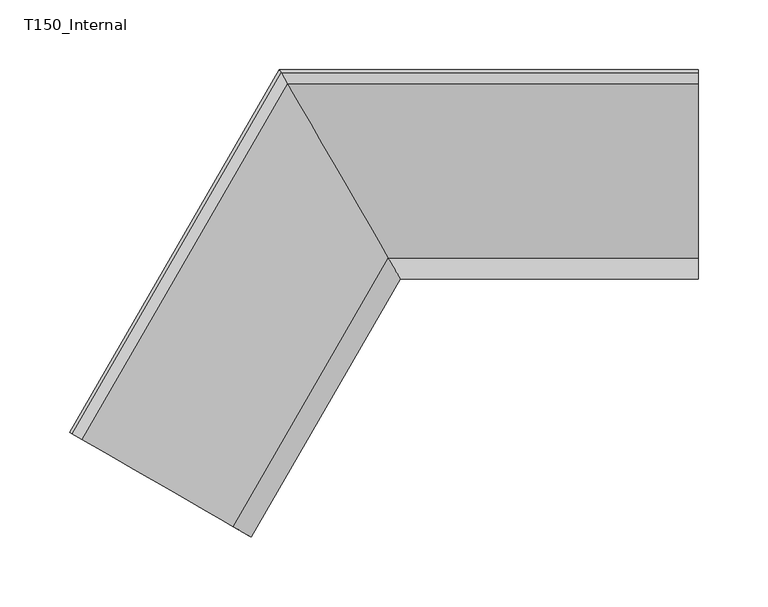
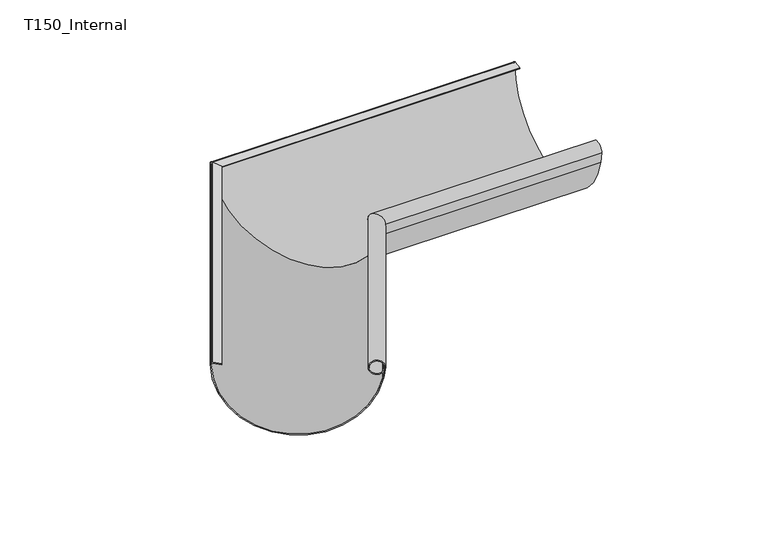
"""IFC4 building model written with IfcOpenShell, lengths in millimetres: proxy geometry, GROVIK_Gutter_Corner_Custom : T150_Internal."""

from ifc_helpers import new_model, si_unit, frame, origin, place, context, project, spatial, polyline, circle_curve, ellipse_curve, source, transform, mapped, element, save
from ifc_brep_helpers import plane_surface, cylinder_surface, revolved_surface, advanced_brep


def t150_internal_665e95bd(model_context):
    return source(origin(), model_context, "Body", "AdvancedBrep", [
        advanced_brep(
        [(-148.0946795, -260.9076584, -0.0242687), (-150.0, -259.8076211, -1.8), (-21.4496, -334.0262292, -16.2320172), (-20.0961894, -334.8076211, -5.2006666), (-22.1815329, -333.6036475, -10.6080252), (-21.5369279, -333.9758104, -9.0063664), (-21.0596263, -334.2513806, -5.5500325), (-21.8282402, -333.8076211, -5.4006666), (-22.318088, -333.5248074, -8.9478528), (-22.7331487, -333.285172, -9.9710741), (-20.8802055, -334.3549693, -5.3813466), (-22.2976482, -333.5366083, -16.0293209), (-149.1312614, -260.3091876, -2.054027), (-148.0103004, -260.9563747, -0.9559749), (-141.5252941, -264.7004949, -2.295228), (-141.3880736, -264.7797192, -1.4092855), (5.7990193, -9.8441961, -1.4092855), (1.3279487, -2.1000746, -0.0242687), (5.707539, -9.6857475, -2.295228), (1.3842014, -2.1975071, -0.9559749), (0.6373676, -0.9039531, -2.0540157), (85.1926363, -147.3579744, -16.0293209), (86.137598, -148.9946963, -5.3813466), (84.9023025, -146.8551017, -9.9710741), (85.1790097, -147.3343725, -8.9478528), (85.5055749, -147.9, -5.4006666), (86.0179842, -148.7875189, -5.5500325), (85.6997831, -148.2363785, -9.0063664), (85.2700464, -147.4920528, -10.6080252), (86.6602754, -149.9, -5.2006666), (85.7580017, -148.3372161, -16.2320172), (0.057735, 0.1, -1.8)],
        [
            (0, 1, circle_curve(frame((-148.3568323, -260.7563044, -1.9), z_axis=(-0.4999999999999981, -0.8660254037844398, 0.0), x_axis=(0.8660254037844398, -0.4999999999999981, 0.0)), 1.9)),
            (1, 2, circle_curve(frame((-85.0523738, -297.3051506, -1.03), z_axis=(-0.4999999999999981, -0.8660254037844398, 0.0), x_axis=(-0.8660254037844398, 0.4999999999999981, 0.0)), 74.9990118)),
            (2, 3),
            (3, 4, circle_curve(frame((-26.59138, -331.0576211, -5.1006666), z_axis=(-0.4999999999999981, -0.8660254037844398, 0.0), x_axis=(0.8660254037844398, -0.4999999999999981, 0.0)), 7.5006666)),
            (4, 5, circle_curve(frame((-24.2995216, -332.3808262, -8.4977001), z_axis=(-0.4999999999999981, -0.8660254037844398, 0.0), x_axis=(0.8660254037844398, -0.4999999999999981, 0.0)), 3.2302694)),
            (5, 6),
            (6, 7),
            (7, 8),
            (8, 9, circle_curve(frame((-24.0669093, -332.5151249, -8.6258487), z_axis=(0.4999999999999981, 0.8660254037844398, 0.0), x_axis=(0.8660254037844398, -0.4999999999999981, 0.0)), 2.0448768)),
            (9, 10, circle_curve(frame((-26.59138, -331.0576211, -5.1006666), z_axis=(0.4999999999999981, 0.8660254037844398, 0.0), x_axis=(0.8660254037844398, -0.4999999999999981, 0.0)), 6.6006666)),
            (10, 11),
            (11, 12, circle_curve(frame((-85.0523738, -297.3051506, -1.03), z_axis=(0.4999999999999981, 0.8660254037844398, 0.0), x_axis=(-0.8660254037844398, 0.4999999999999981, 0.0)), 73.9990118)),
            (12, 13, circle_curve(frame((-148.1780144, -260.859545, -2.0387934), z_axis=(0.4999999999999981, 0.8660254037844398, 0.0), x_axis=(0.8660254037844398, -0.4999999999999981, 0.0)), 1.1)),
            (13, 14),
            (14, 15),
            (15, 0),
            (15, 16),
            (16, 17),
            (17, 0),
            (14, 18),
            (18, 16),
            (13, 19),
            (19, 18),
            (12, 20),
            (20, 19, ellipse_curve(frame((1.2723921, -2.0038477, -2.0387934), z_axis=(0.8660254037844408, 0.4999999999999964, 0.0), x_axis=(-0.49999999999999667, 0.8660254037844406, 0.0)), 1.2701706, 1.1)),
            (11, 21),
            (21, 20, ellipse_curve(frame((43.3561525, -74.895059, -1.03), z_axis=(0.8660254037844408, 0.4999999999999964, 0.0), x_axis=(-0.49999999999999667, 0.8660254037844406, 0.0)), 85.4466987, 73.9990118)),
            (10, 22),
            (22, 21),
            (9, 23),
            (23, 22, ellipse_curve(frame((82.3301484, -142.4, -5.1006666), z_axis=(0.8660254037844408, 0.4999999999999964, 0.0), x_axis=(-0.49999999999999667, 0.8660254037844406, 0.0)), 7.6217933, 6.6006666)),
            (8, 24),
            (24, 23, ellipse_curve(frame((84.0131288, -145.3150076, -8.6258487), z_axis=(0.8660254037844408, 0.4999999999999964, 0.0), x_axis=(-0.49999999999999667, 0.8660254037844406, 0.0)), 2.3612204, 2.0448768)),
            (7, 25),
            (25, 24),
            (6, 26),
            (26, 25),
            (5, 27),
            (27, 26),
            (4, 28),
            (28, 27, ellipse_curve(frame((83.858054, -145.0464101, -8.4977001), z_axis=(-0.8660254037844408, -0.4999999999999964, 0.0), x_axis=(0.49999999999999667, -0.8660254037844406, 0.0)), 3.7299938, 3.2302694)),
            (3, 29),
            (29, 28, ellipse_curve(frame((82.3301484, -142.4, -5.1006666), z_axis=(-0.8660254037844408, -0.4999999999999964, 0.0), x_axis=(0.49999999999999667, -0.8660254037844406, 0.0)), 8.6610238, 7.5006666)),
            (2, 30),
            (30, 29),
            (1, 31),
            (31, 30, ellipse_curve(frame((43.3561525, -74.895059, -1.03), z_axis=(-0.8660254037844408, -0.4999999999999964, 0.0), x_axis=(0.49999999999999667, -0.8660254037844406, 0.0)), 86.6013993, 74.9990118)),
            (17, 31, ellipse_curve(frame((1.1531801, -1.7973666, -1.9), z_axis=(-0.8660254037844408, -0.4999999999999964, 0.0), x_axis=(0.49999999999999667, -0.8660254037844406, 0.0)), 2.193931, 1.9)),
        ],
        [
            plane_surface(frame((-150.0, -259.8076211, 0.0), z_axis=(-0.4999999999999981, -0.8660254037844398, 0.0), x_axis=(0.0, 0.0, 1.0))),
            plane_surface(frame((-148.0946795, -260.9076584, -0.0242687), z_axis=(0.1524672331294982, -0.08802699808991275, 0.984380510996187), x_axis=(0.4999999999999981, 0.8660254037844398, 0.0))),
            plane_surface(frame((-141.3880736, -264.7797192, -1.4092855), z_axis=(0.8524985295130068, -0.4921902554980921, -0.17605399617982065), x_axis=(0.4999999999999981, 0.8660254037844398, 0.0))),
            plane_surface(frame((-141.5252941, -264.7004949, -2.295228), z_axis=(-0.1524672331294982, 0.08802699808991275, -0.984380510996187), x_axis=(0.4999999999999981, 0.8660254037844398, 0.0))),
            revolved_surface(polyline([(2.54256270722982, -2.0038477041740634, -2.0387934), (-147.2253864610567, -261.40954500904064, -2.0387934)]), (-148.1780144, -260.859545, -2.0387934), (0.4999999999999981, 0.8660254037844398, 0.0)),
            revolved_surface(polyline([(0.6328030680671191, -0.8960472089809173, -1.03), (-149.13739787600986, -260.3056447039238, -1.03)]), (-85.0523738, -297.3051506, -1.03), (0.4999999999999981, 0.8660254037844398, 0.0)),
            plane_surface(frame((-22.2976482, -333.5366083, -16.0293209), z_axis=(-0.8559722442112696, 0.49419580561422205, 0.1519276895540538), x_axis=(0.4999999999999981, 0.8660254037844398, 0.0))),
            revolved_surface(polyline([(89.95194162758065, -142.39999995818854, -5.1006666), (-20.875035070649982, -334.35795444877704, -5.1006666)]), (-26.59138, -331.0576211, -5.1006666), (0.4999999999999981, 0.8660254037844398, 0.0)),
            revolved_surface(polyline([(86.37434916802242, -145.31500758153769, -8.6258487), (-22.295994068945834, -333.5375633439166, -8.6258487)]), (-24.0669093, -332.5151249, -8.6258487), (0.4999999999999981, 0.8660254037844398, 0.0)),
            plane_surface(frame((-22.318088, -333.5248074, -8.9478528), z_axis=(-0.8552208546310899, 0.493761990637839, 0.15746868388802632), x_axis=(0.4999999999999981, 0.8660254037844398, 0.0))),
            plane_surface(frame((-21.8282402, -333.8076211, -5.4006666), z_axis=(0.14372734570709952, -0.08298102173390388, 0.9861321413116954), x_axis=(0.4999999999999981, 0.8660254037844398, 0.0))),
            plane_surface(frame((-21.0596263, -334.2513806, -5.5500325), z_axis=(0.8552208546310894, -0.4937619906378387, -0.1574686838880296), x_axis=(0.4999999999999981, 0.8660254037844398, 0.0))),
            cylinder_surface(frame((-24.2995216, -332.3808262, -8.4977001), z_axis=(-0.4999999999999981, -0.8660254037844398, 0.0), x_axis=(0.8660254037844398, -0.4999999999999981, 0.0)), 3.2302694),
            cylinder_surface(frame((-26.59138, -331.0576211, -5.1006666), z_axis=(-0.4999999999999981, -0.8660254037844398, 0.0), x_axis=(0.8660254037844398, -0.4999999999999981, 0.0)), 7.5006666),
            plane_surface(frame((-20.0961894, -334.8076211, -5.2006666), z_axis=(0.8574636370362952, -0.49505686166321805, -0.14026694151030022), x_axis=(0.4999999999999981, 0.8660254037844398, 0.0))),
            cylinder_surface(frame((-85.0523738, -297.3051506, -1.03), z_axis=(-0.4999999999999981, -0.8660254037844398, 0.0), x_axis=(-0.8660254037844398, 0.4999999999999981, 0.0)), 74.9990118),
            cylinder_surface(frame((-148.3568323, -260.7563044, -1.9), z_axis=(-0.4999999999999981, -0.8660254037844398, 0.0), x_axis=(0.8660254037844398, -0.4999999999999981, 0.0)), 1.9),
            plane_surface(frame((86.7757455, -150.1, 250.0), z_axis=(0.8660254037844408, 0.4999999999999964, 0.0), x_axis=(0.0, 0.0, -1.0))),
        ],
        [
            (0, [[1, 2, 3, 4, 5, 6, 7, 8, 9, 10, 11, 12, 13, 14, 15, 16]]),
            (1, [[17, 18, 19, -16]]),
            (2, [[20, 21, -17, -15]]),
            (3, [[22, 23, -20, -14]]),
            (4, [[24, 25, -22, -13]]),
            (5, [[26, 27, -24, -12]]),
            (6, [[28, 29, -26, -11]]),
            (7, [[30, 31, -28, -10]]),
            (8, [[32, 33, -30, -9]]),
            (9, [[34, 35, -32, -8]]),
            (10, [[36, 37, -34, -7]]),
            (11, [[38, 39, -36, -6]]),
            (12, [[40, 41, -38, -5]]),
            (13, [[42, 43, -40, -4]]),
            (14, [[44, 45, -42, -3]]),
            (15, [[46, 47, -44, -2]]),
            (16, [[-19, 48, -46, -1]]),
            (17, [[-21, -23, -25, -27, -29, -31, -33, -35, -37, -39, -41, -43, -45, -47, -48, -18]]),
        ],
    ),
        advanced_brep(
        [(300.0, -2.2000746, -0.0242687), (300.0, -9.9441961, -1.4092855), (300.0, -9.7857475, -2.295228), (300.0, -2.2975071, -0.9559749), (300.0, -1.0039531, -2.0540157), (300.0, -147.4579744, -16.0293209), (300.0, -149.0946963, -5.3813466), (300.0, -146.9551017, -9.9710741), (300.0, -147.4343725, -8.9478528), (300.0, -148.0, -5.4006666), (300.0, -148.8875189, -5.5500325), (300.0, -148.3363785, -9.0063664), (300.0, -147.5920528, -10.6080252), (300.0, -150.0, -5.2006666), (300.0, -148.4372161, -16.2320172), (300.0, 0.0, -1.8), (1.1547436, -2.2000746, -0.0242687), (5.6258142, -9.9441961, -1.4092855), (5.5343339, -9.7857475, -2.295228), (1.2109963, -2.2975071, -0.9559749), (0.4641625, -1.0039531, -2.0540157), (85.0194312, -147.4579744, -16.0293209), (85.964393, -149.0946963, -5.3813466), (84.7290975, -146.9551017, -9.9710741), (85.0058046, -147.4343725, -8.9478528), (85.3323698, -148.0, -5.4006666), (85.8447791, -148.8875189, -5.5500325), (85.526578, -148.3363785, -9.0063664), (85.0968414, -147.5920528, -10.6080252), (86.4870703, -150.0, -5.2006666), (85.5847966, -148.4372161, -16.2320172), (-0.1154701, 0.0, -1.8)],
        [
            (0, 1),
            (1, 2),
            (2, 3),
            (3, 4, circle_curve(frame((300.0, -2.1038477, -2.0387934), z_axis=(-1.0, 0.0, 0.0), x_axis=(0.0, -1.0, 0.0)), 1.1)),
            (4, 5, circle_curve(frame((300.0, -74.995059, -1.03), z_axis=(-1.0, 0.0, 0.0), x_axis=(0.0, 1.0, 0.0)), 73.9990118)),
            (5, 6),
            (6, 7, circle_curve(frame((300.0, -142.5, -5.1006666), z_axis=(-1.0, 0.0, 0.0), x_axis=(0.0, -1.0, 0.0)), 6.6006666)),
            (7, 8, circle_curve(frame((300.0, -145.4150076, -8.6258487), z_axis=(-1.0, 0.0, 0.0), x_axis=(0.0, -1.0, 0.0)), 2.0448768)),
            (8, 9),
            (9, 10),
            (10, 11),
            (11, 12, circle_curve(frame((300.0, -145.1464101, -8.4977001), z_axis=(1.0, 0.0, 0.0), x_axis=(0.0, -1.0, 0.0)), 3.2302694)),
            (12, 13, circle_curve(frame((300.0, -142.5, -5.1006666), z_axis=(1.0, 0.0, 0.0), x_axis=(0.0, -1.0, 0.0)), 7.5006666)),
            (13, 14),
            (14, 15, circle_curve(frame((300.0, -74.995059, -1.03), z_axis=(1.0, 0.0, 0.0), x_axis=(0.0, 1.0, 0.0)), 74.9990118)),
            (15, 0, circle_curve(frame((300.0, -1.8973666, -1.9), z_axis=(1.0, 0.0, 0.0), x_axis=(0.0, -1.0, 0.0)), 1.9)),
            (0, 16),
            (16, 17),
            (17, 1),
            (17, 18),
            (18, 2),
            (18, 19),
            (19, 3),
            (19, 20, ellipse_curve(frame((1.099187, -2.1038477, -2.0387934), z_axis=(-0.8660254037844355, -0.5000000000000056, 0.0), x_axis=(-0.5000000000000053, 0.8660254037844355, 0.0)), 1.2701706, 1.1)),
            (20, 4),
            (20, 21, ellipse_curve(frame((43.1829474, -74.995059, -1.03), z_axis=(-0.8660254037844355, -0.5000000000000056, 0.0), x_axis=(-0.5000000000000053, 0.8660254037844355, 0.0)), 85.4466987, 73.9990118)),
            (21, 5),
            (21, 22),
            (22, 6),
            (22, 23, ellipse_curve(frame((82.1569433, -142.5, -5.1006666), z_axis=(-0.8660254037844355, -0.5000000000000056, 0.0), x_axis=(-0.5000000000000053, 0.8660254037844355, 0.0)), 7.6217933, 6.6006666)),
            (23, 7),
            (23, 24, ellipse_curve(frame((83.8399237, -145.4150076, -8.6258487), z_axis=(-0.8660254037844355, -0.5000000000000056, 0.0), x_axis=(-0.5000000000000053, 0.8660254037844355, 0.0)), 2.3612204, 2.0448768)),
            (24, 8),
            (24, 25),
            (25, 9),
            (25, 26),
            (26, 10),
            (26, 27),
            (27, 11),
            (27, 28, ellipse_curve(frame((83.6848489, -145.1464101, -8.4977001), z_axis=(0.8660254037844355, 0.5000000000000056, 0.0), x_axis=(0.5000000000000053, -0.8660254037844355, 0.0)), 3.7299938, 3.2302694)),
            (28, 12),
            (28, 29, ellipse_curve(frame((82.1569433, -142.5, -5.1006666), z_axis=(0.8660254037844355, 0.5000000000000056, 0.0), x_axis=(0.5000000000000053, -0.8660254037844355, 0.0)), 8.6610238, 7.5006666)),
            (29, 13),
            (29, 30),
            (30, 14),
            (30, 31, ellipse_curve(frame((43.1829474, -74.995059, -1.03), z_axis=(0.8660254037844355, 0.5000000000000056, 0.0), x_axis=(0.5000000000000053, -0.8660254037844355, 0.0)), 86.6013993, 74.9990118)),
            (31, 15),
            (31, 16, ellipse_curve(frame((0.9799751, -1.8973666, -1.9), z_axis=(0.8660254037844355, 0.5000000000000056, 0.0), x_axis=(0.5000000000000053, -0.8660254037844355, 0.0)), 2.193931, 1.9)),
        ],
        [
            plane_surface(frame((300.0, 0.0, 0.0), z_axis=(1.0, 0.0, 0.0), x_axis=(0.0, 0.0, 1.0))),
            plane_surface(frame((300.0, -2.2000746, -0.0242687), z_axis=(0.0, -0.17605399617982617, 0.9843805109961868), x_axis=(-1.0, 0.0, 0.0))),
            plane_surface(frame((300.0, -9.9441961, -1.4092855), z_axis=(0.0, -0.9843805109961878, -0.1760539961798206), x_axis=(-1.0, 0.0, 0.0))),
            plane_surface(frame((300.0, -9.7857475, -2.295228), z_axis=(0.0, 0.17605399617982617, -0.9843805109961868), x_axis=(-1.0, 0.0, 0.0))),
            revolved_surface(polyline([(0.4641016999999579, -3.2038477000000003, -2.0387934), (300.0, -3.2038477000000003, -2.0387934)]), (300.0, -2.1038477, -2.0387934), (-1.0, 0.0, 0.0)),
            revolved_surface(polyline([(0.4595980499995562, -0.9960471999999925, -1.03), (300.0, -0.9960471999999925, -1.03)]), (300.0, -74.995059, -1.03), (-1.0, 0.0, 0.0)),
            plane_surface(frame((300.0, -147.4579744, -16.0293209), z_axis=(0.0, 0.9883916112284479, 0.15192768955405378), x_axis=(-1.0, 0.0, 0.0))),
            revolved_surface(polyline([(78.34604664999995, -149.1006666, -5.1006666), (300.0, -149.1006666, -5.1006666)]), (300.0, -142.5, -5.1006666), (-1.0, 0.0, 0.0)),
            revolved_surface(polyline([(82.65931349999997, -147.4598844, -8.6258487), (300.0, -147.4598844, -8.6258487)]), (300.0, -145.4150076, -8.6258487), (-1.0, 0.0, 0.0)),
            plane_surface(frame((300.0, -147.4343725, -8.9478528), z_axis=(0.0, 0.9875239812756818, 0.1574686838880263), x_axis=(-1.0, 0.0, 0.0))),
            plane_surface(frame((300.0, -148.0, -5.4006666), z_axis=(0.0, -0.1659620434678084, 0.9861321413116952), x_axis=(-1.0, 0.0, 0.0))),
            plane_surface(frame((300.0, -148.8875189, -5.5500325), z_axis=(0.0, -0.9875239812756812, -0.15746868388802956), x_axis=(-1.0, 0.0, 0.0))),
            cylinder_surface(frame((300.0, -145.1464101, -8.4977001), z_axis=(1.0, 0.0, 0.0), x_axis=(0.0, -1.0, 0.0)), 3.2302694),
            cylinder_surface(frame((300.0, -142.5, -5.1006666), z_axis=(1.0, 0.0, 0.0), x_axis=(0.0, -1.0, 0.0)), 7.5006666),
            plane_surface(frame((300.0, -150.0, -5.2006666), z_axis=(0.0, -0.9901137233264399, -0.14026694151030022), x_axis=(-1.0, 0.0, 0.0))),
            cylinder_surface(frame((300.0, -74.995059, -1.03), z_axis=(1.0, 0.0, 0.0), x_axis=(0.0, 1.0, 0.0)), 74.9990118),
            cylinder_surface(frame((300.0, -1.8973666, -1.9), z_axis=(1.0, 0.0, 0.0), x_axis=(0.0, -1.0, 0.0)), 1.9),
            plane_surface(frame((86.6025404, -150.2, 250.0), z_axis=(-0.8660254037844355, -0.5000000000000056, 0.0), x_axis=(0.0, 0.0, -1.0))),
        ],
        [
            (0, [[1, 2, 3, 4, 5, 6, 7, 8, 9, 10, 11, 12, 13, 14, 15, 16]]),
            (1, [[-1, 17, 18, 19]]),
            (2, [[-2, -19, 20, 21]]),
            (3, [[-3, -21, 22, 23]]),
            (4, [[-4, -23, 24, 25]]),
            (5, [[-5, -25, 26, 27]]),
            (6, [[-6, -27, 28, 29]]),
            (7, [[-7, -29, 30, 31]]),
            (8, [[-8, -31, 32, 33]]),
            (9, [[-9, -33, 34, 35]]),
            (10, [[-10, -35, 36, 37]]),
            (11, [[-11, -37, 38, 39]]),
            (12, [[-12, -39, 40, 41]]),
            (13, [[-13, -41, 42, 43]]),
            (14, [[-14, -43, 44, 45]]),
            (15, [[-15, -45, 46, 47]]),
            (16, [[-16, -47, 48, -17]]),
            (17, [[-18, -48, -46, -44, -42, -40, -38, -36, -34, -32, -30, -28, -26, -24, -22, -20]]),
        ],
    ),
    ])


if __name__ == "__main__":
    model = new_model("IFC4")
    model_context = context("Model", 3, world=origin())
    ifc_project = project(units=[si_unit("LENGTHUNIT", "METRE", prefix="MILLI")], contexts=[model_context])
    site = spatial("IfcSite", under=ifc_project)
    building = spatial("IfcBuilding", under=site)
    placement = place(None, origin())
    t150_internal_shape = t150_internal_665e95bd(model_context)
    element("IfcBuildingElementProxy", 1, Name="GROVIK_Gutter_Corner_Custom : T150_Internal", ObjectType="GROVIK_Gutter_Corner_Custom : T150_Internal", at=placement, inside=building, context=model_context, shape_type="MappedRepresentation", body=[
        mapped(t150_internal_shape, transform((0.0, 0.0, 0.0), x_axis=(1.0, 0.0, 0.0), y_axis=(0.0, 1.0, 0.0), z_axis=(0.0, 0.0, 1.0))),
    ])
    save(model, "model.ifc")
